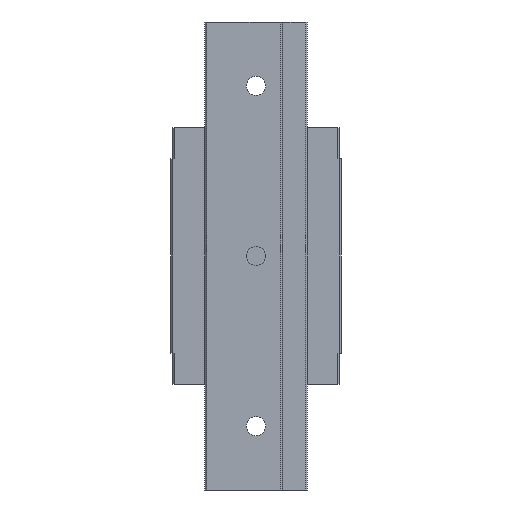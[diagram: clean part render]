
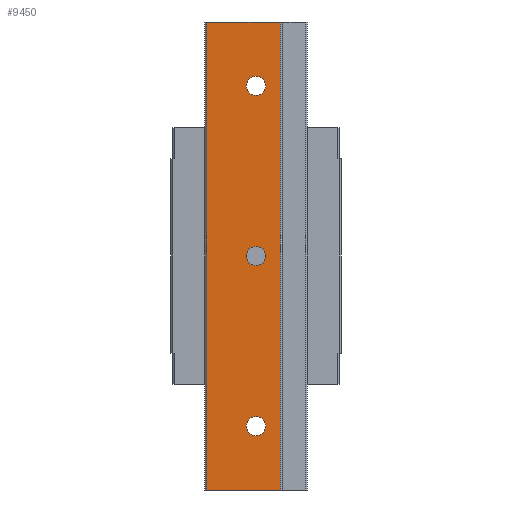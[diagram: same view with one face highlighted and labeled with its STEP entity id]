
A CAD part, front view. The second image highlights one B-rep face of the part: STEP entity #9450.
In plain terms, the highlighted planar face has unit normal (0, -1, 0).
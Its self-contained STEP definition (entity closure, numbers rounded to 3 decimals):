
#106 = DIRECTION ( 'NONE',  ( 0., 0., -1. ) ) ;
#189 = VECTOR ( 'NONE', #3300, 1000. ) ;
#227 = FACE_BOUND ( 'NONE', #4810, .T. ) ;
#459 = VECTOR ( 'NONE', #565, 1000. ) ;
#474 = DIRECTION ( 'NONE',  ( 0., -1., 0. ) ) ;
#501 = VECTOR ( 'NONE', #10041, 1000. ) ;
#522 = DIRECTION ( 'NONE',  ( 0., 1., 0. ) ) ;
#561 = DIRECTION ( 'NONE',  ( 0., -1., 0. ) ) ;
#565 = DIRECTION ( 'NONE',  ( -1., 0., 0. ) ) ;
#706 = LINE ( 'NONE', #4084, #501 ) ;
#959 = VERTEX_POINT ( 'NONE', #2726 ) ;
#1203 = CIRCLE ( 'NONE', #3334, 2.25 ) ;
#1323 = VERTEX_POINT ( 'NONE', #8899 ) ;
#1331 = VERTEX_POINT ( 'NONE', #9515 ) ;
#1403 = VERTEX_POINT ( 'NONE', #10513 ) ;
#1494 = DIRECTION ( 'NONE',  ( 0., 0., -1. ) ) ;
#1521 = LINE ( 'NONE', #7809, #10463 ) ;
#1561 = EDGE_CURVE ( 'NONE', #1403, #1331, #1521, .T. ) ;
#1566 = CARTESIAN_POINT ( 'NONE',  ( 5.7, 0., 55. ) ) ;
#1586 = EDGE_CURVE ( 'NONE', #8502, #3413, #7033, .T. ) ;
#1605 = CIRCLE ( 'NONE', #7889, 2.25 ) ;
#1695 = ORIENTED_EDGE ( 'NONE', *, *, #3490, .F. ) ;
#1851 = AXIS2_PLACEMENT_3D ( 'NONE', #8111, #474, #4004 ) ;
#1962 = CARTESIAN_POINT ( 'NONE',  ( 0., 0., -2.25 ) ) ;
#2169 = EDGE_CURVE ( 'NONE', #959, #3855, #6689, .T. ) ;
#2187 = DIRECTION ( 'NONE',  ( 1., 0., 0. ) ) ;
#2559 = AXIS2_PLACEMENT_3D ( 'NONE', #4811, #561, #1494 ) ;
#2642 = DIRECTION ( 'NONE',  ( 0., 0., -1. ) ) ;
#2704 = FACE_BOUND ( 'NONE', #8189, .T. ) ;
#2726 = CARTESIAN_POINT ( 'NONE',  ( 0., 0., 42.25 ) ) ;
#2766 = CIRCLE ( 'NONE', #4558, 2.25 ) ;
#2953 = CARTESIAN_POINT ( 'NONE',  ( -11.6, 0., -55. ) ) ;
#3121 = CARTESIAN_POINT ( 'NONE',  ( 6., 0., -55. ) ) ;
#3210 = CARTESIAN_POINT ( 'NONE',  ( 0., 0., -40. ) ) ;
#3300 = DIRECTION ( 'NONE',  ( 0., 0., -1. ) ) ;
#3334 = AXIS2_PLACEMENT_3D ( 'NONE', #6162, #4327, #8664 ) ;
#3413 = VERTEX_POINT ( 'NONE', #8459 ) ;
#3490 = EDGE_CURVE ( 'NONE', #5910, #1323, #1203, .T. ) ;
#3855 = VERTEX_POINT ( 'NONE', #5867 ) ;
#3892 = CARTESIAN_POINT ( 'NONE',  ( -12., 0., 55. ) ) ;
#4004 = DIRECTION ( 'NONE',  ( 0., 0., -1. ) ) ;
#4084 = CARTESIAN_POINT ( 'NONE',  ( -11.6, 0., 55. ) ) ;
#4327 = DIRECTION ( 'NONE',  ( 0., -1., 0. ) ) ;
#4545 = EDGE_CURVE ( 'NONE', #1323, #5910, #5243, .T. ) ;
#4558 = AXIS2_PLACEMENT_3D ( 'NONE', #9617, #8668, #106 ) ;
#4810 = EDGE_LOOP ( 'NONE', ( #1695, #7332 ) ) ;
#4811 = CARTESIAN_POINT ( 'NONE',  ( 0., 0., 0. ) ) ;
#4990 = DIRECTION ( 'NONE',  ( -1., 0., 0. ) ) ;
#5243 = CIRCLE ( 'NONE', #2559, 2.25 ) ;
#5480 = EDGE_CURVE ( 'NONE', #8561, #1331, #706, .T. ) ;
#5762 = EDGE_LOOP ( 'NONE', ( #9110, #9695 ) ) ;
#5867 = CARTESIAN_POINT ( 'NONE',  ( 0., 0., 37.75 ) ) ;
#5910 = VERTEX_POINT ( 'NONE', #1962 ) ;
#6093 = EDGE_CURVE ( 'NONE', #1403, #10723, #9293, .T. ) ;
#6162 = CARTESIAN_POINT ( 'NONE',  ( 0., 0., 0. ) ) ;
#6503 = EDGE_CURVE ( 'NONE', #3413, #8502, #1605, .T. ) ;
#6689 = CIRCLE ( 'NONE', #1851, 2.25 ) ;
#7033 = CIRCLE ( 'NONE', #9405, 2.25 ) ;
#7073 = FACE_OUTER_BOUND ( 'NONE', #10214, .T. ) ;
#7101 = ORIENTED_EDGE ( 'NONE', *, *, #9957, .F. ) ;
#7332 = ORIENTED_EDGE ( 'NONE', *, *, #4545, .F. ) ;
#7636 = CARTESIAN_POINT ( 'NONE',  ( 0., 0., -40. ) ) ;
#7809 = CARTESIAN_POINT ( 'NONE',  ( 6., 0., 55. ) ) ;
#7889 = AXIS2_PLACEMENT_3D ( 'NONE', #3210, #8481, #10095 ) ;
#8111 = CARTESIAN_POINT ( 'NONE',  ( 0., 0., 40. ) ) ;
#8189 = EDGE_LOOP ( 'NONE', ( #9598, #10742 ) ) ;
#8459 = CARTESIAN_POINT ( 'NONE',  ( 0., 0., -37.75 ) ) ;
#8481 = DIRECTION ( 'NONE',  ( 0., -1., 0. ) ) ;
#8502 = VERTEX_POINT ( 'NONE', #9232 ) ;
#8561 = VERTEX_POINT ( 'NONE', #2953 ) ;
#8595 = ORIENTED_EDGE ( 'NONE', *, *, #1561, .T. ) ;
#8664 = DIRECTION ( 'NONE',  ( 0., 0., -1. ) ) ;
#8668 = DIRECTION ( 'NONE',  ( 0., -1., 0. ) ) ;
#8745 = ORIENTED_EDGE ( 'NONE', *, *, #5480, .F. ) ;
#8899 = CARTESIAN_POINT ( 'NONE',  ( 0., 0., 2.25 ) ) ;
#9110 = ORIENTED_EDGE ( 'NONE', *, *, #1586, .F. ) ;
#9232 = CARTESIAN_POINT ( 'NONE',  ( 0., 0., -42.25 ) ) ;
#9250 = AXIS2_PLACEMENT_3D ( 'NONE', #3892, #522, #2187 ) ;
#9293 = LINE ( 'NONE', #1566, #189 ) ;
#9405 = AXIS2_PLACEMENT_3D ( 'NONE', #7636, #10292, #2642 ) ;
#9450 = ADVANCED_FACE ( 'NONE', ( #2704, #227, #9577, #7073 ), #9677, .F. ) ;
#9515 = CARTESIAN_POINT ( 'NONE',  ( -11.6, 0., 55. ) ) ;
#9577 = FACE_BOUND ( 'NONE', #5762, .T. ) ;
#9598 = ORIENTED_EDGE ( 'NONE', *, *, #9780, .F. ) ;
#9617 = CARTESIAN_POINT ( 'NONE',  ( 0., 0., 40. ) ) ;
#9677 = PLANE ( 'NONE',  #9250 ) ;
#9695 = ORIENTED_EDGE ( 'NONE', *, *, #6503, .F. ) ;
#9780 = EDGE_CURVE ( 'NONE', #3855, #959, #2766, .T. ) ;
#9957 = EDGE_CURVE ( 'NONE', #10723, #8561, #10916, .T. ) ;
#10041 = DIRECTION ( 'NONE',  ( 0., 0., 1. ) ) ;
#10095 = DIRECTION ( 'NONE',  ( 0., 0., -1. ) ) ;
#10202 = ORIENTED_EDGE ( 'NONE', *, *, #6093, .F. ) ;
#10214 = EDGE_LOOP ( 'NONE', ( #8595, #8745, #7101, #10202 ) ) ;
#10292 = DIRECTION ( 'NONE',  ( 0., -1., 0. ) ) ;
#10463 = VECTOR ( 'NONE', #4990, 1000. ) ;
#10513 = CARTESIAN_POINT ( 'NONE',  ( 5.7, 0., 55. ) ) ;
#10723 = VERTEX_POINT ( 'NONE', #10756 ) ;
#10742 = ORIENTED_EDGE ( 'NONE', *, *, #2169, .F. ) ;
#10756 = CARTESIAN_POINT ( 'NONE',  ( 5.7, 0., -55. ) ) ;
#10916 = LINE ( 'NONE', #3121, #459 ) ;
